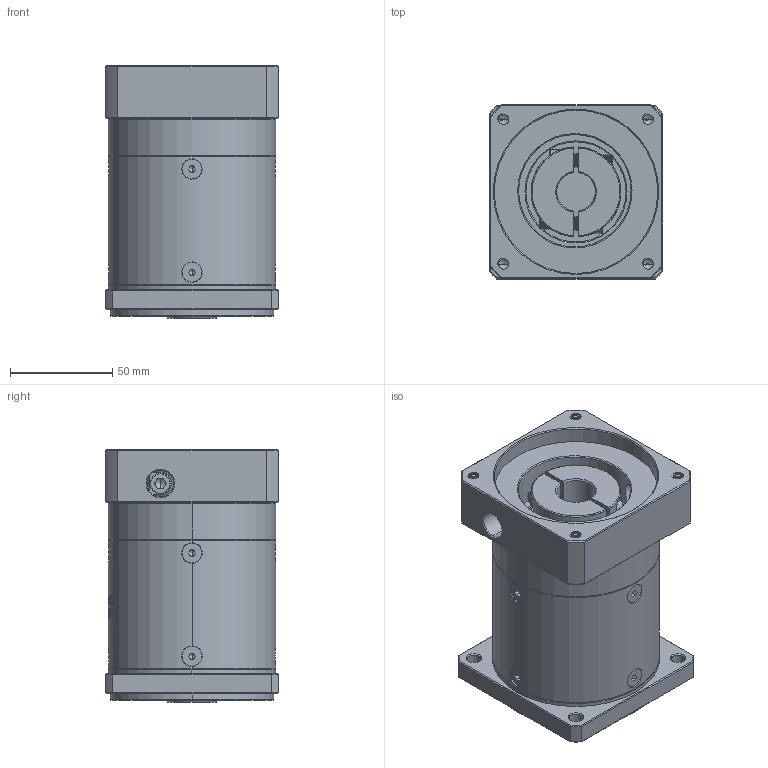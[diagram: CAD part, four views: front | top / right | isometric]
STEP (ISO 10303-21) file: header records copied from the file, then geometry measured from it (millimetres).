
FILE_DESCRIPTION (( 'STEP AP214' ), '1' );
FILE_NAME ('ZF080-K15-L2-P2-19-80-100-M6.step', '2023-08-19T05:36:23', ( '' ), ( '' ), 'SwSTEP 2.0', 'SolidWorks 2016', '' );
FILE_SCHEMA (( 'AUTOMOTIVE_DESIGN' ));
Length unit declared in the file: millimetre
Products named in the file (1): ZF080-K15-L2-P2-19-80-100-M6
Bounding box: 85 x 85 x 123.5 mm (x, y, z)
Volume: 620347.8 mm3; surface area: 92724.7 mm2
Topology: 13 solids, 13 shells, 2208 faces, 5788 edges, 3678 vertices
Faces by surface type: plane 1066, bspline 390, cylinder 384, cone 333, torus 35
Entity records: 117237 total; most frequent: CARTESIAN_POINT 43599, ORIENTED_EDGE 11520, DIRECTION 8521, EDGE_CURVE 5760, VERTEX_POINT 3678, VECTOR 3073, LINE 3073, AXIS2_PLACEMENT_3D 2724
